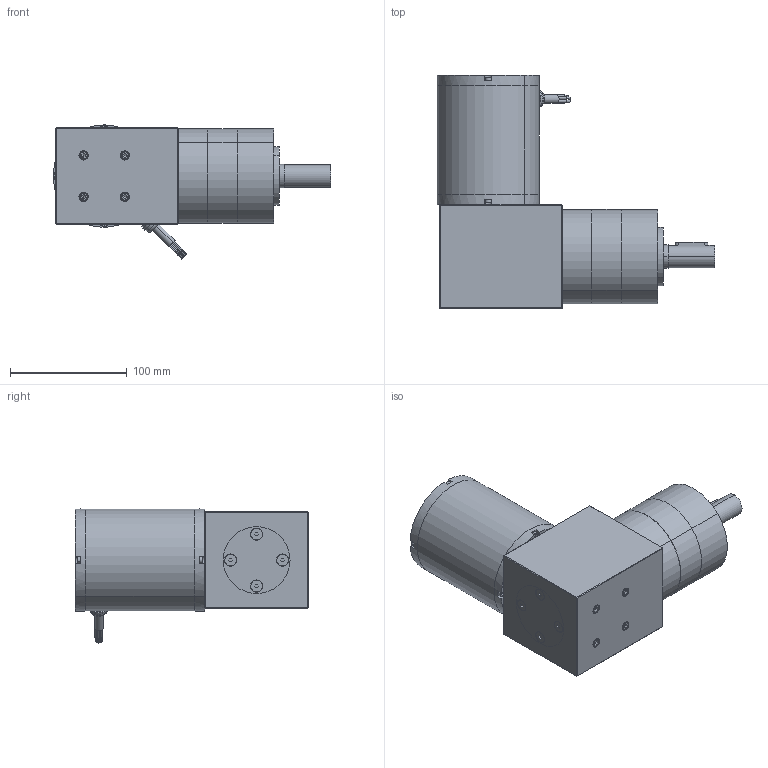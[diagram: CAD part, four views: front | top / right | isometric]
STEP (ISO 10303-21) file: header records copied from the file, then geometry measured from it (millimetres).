
FILE_DESCRIPTION (( 'STEP AP203' ), '1' );
FILE_NAME ('bl87500gra2.step', '2018-12-07T19:12:10', ( '' ), ( '' ), 'SwSTEP 2.0', 'SolidWorks 2017', '' );
FILE_SCHEMA (( 'CONFIG_CONTROL_DESIGN' ));
Length unit declared in the file: inch
Products named in the file (1): bl87500gra2
Bounding box: 237.43 x 199.39 x 114.6 mm (x, y, z)
Volume: 1871579.2 mm3; surface area: 204831.5 mm2
Topology: 30 solids, 30 shells, 1210 faces, 3034 edges, 1952 vertices
Faces by surface type: cylinder 725, plane 350, cone 117, torus 10, bspline 8
Entity records: 55218 total; most frequent: CARTESIAN_POINT 28737, ORIENTED_EDGE 6020, DIRECTION 5047, EDGE_CURVE 3010, VERTEX_POINT 1952, AXIS2_PLACEMENT_3D 1842, LINE 1363, VECTOR 1363
